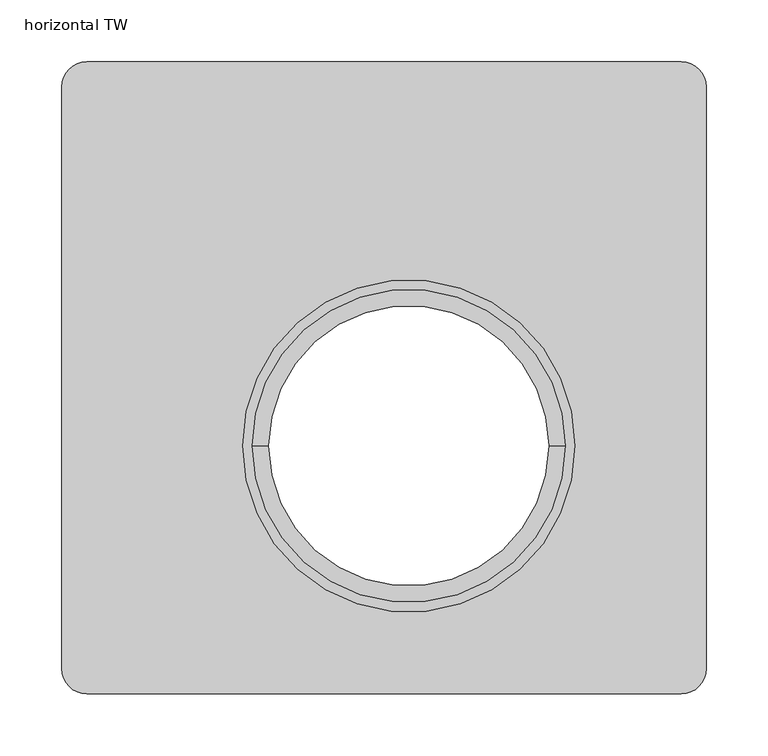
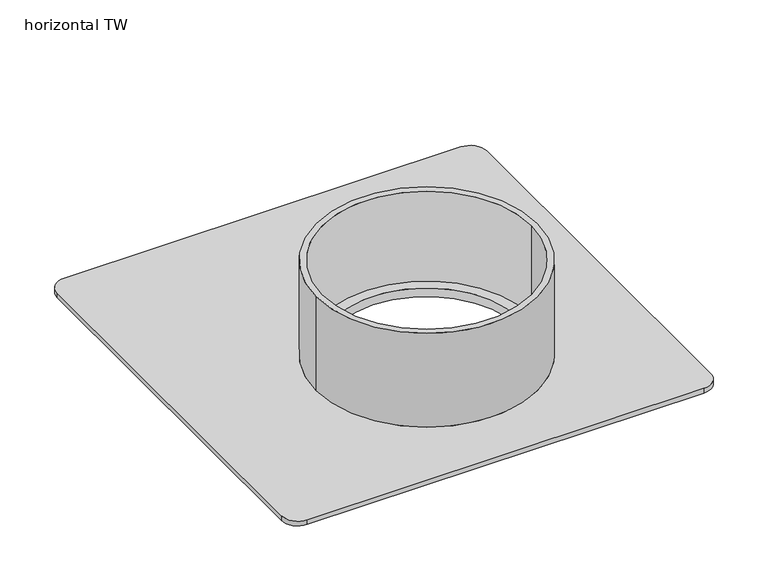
"""IFC4 building model written with IfcOpenShell, lengths in millimetres: unitary equipment geometry, Wavin_MechanicalEquipment_QBicPlusZDoNotUsePipeAdaptor : horizontal TW."""

from ifc_helpers import new_model, si_unit, frame, origin, origin_with_axes, place, context, project, spatial, polyline, circle_curve, source, transform, mapped, element, save
from ifc_brep_helpers import plane_surface, cylinder_surface, revolved_surface, advanced_brep


def horizontal_tw_9e0a140b(model_context):
    return source(origin(), model_context, "Body", "AdvancedBrep", [
        advanced_brep(
        [(220.0, 310.0, 6.0), (-260.0, 310.0, 6.0), (-280.0, 290.0, 6.0), (-280.0, -180.0, 6.0), (-260.0, -200.0, 6.0), (220.0, -200.0, 6.0), (240.0, -180.0, 6.0), (240.0, 290.0, 6.0), (134.0, 0.0, 6.0), (-134.0, 0.0, 6.0), (220.0, 310.0, 0.0), (-260.0, 310.0, 0.0), (-280.0, 290.0, 0.0), (-280.0, -180.0, 0.0), (-260.0, -200.0, 0.0), (220.0, -200.0, 0.0), (240.0, -180.0, 0.0), (240.0, 290.0, 0.0), (-134.0, 0.0, 126.0), (134.0, 0.0, 126.0), (-126.25, 0.0, 126.0), (126.25, 0.0, 126.0), (113.25, 0.0, 0.0), (-113.25, 0.0, 0.0), (126.25, 0.0, 11.0), (-126.25, 0.0, 11.0), (-113.25, 0.0, 11.0), (113.25, 0.0, 11.0), (-113.25, 0.0, 6.0), (113.25, 0.0, 6.0)],
        [
            (0, 1),
            (1, 2, circle_curve(frame((-260.0, 290.0, 6.0), z_axis=(0.0, 0.0, 1.0), x_axis=(1.0, 0.0, 0.0)), 20.0)),
            (2, 3),
            (3, 4, circle_curve(frame((-260.0, -180.0, 6.0), z_axis=(0.0, 0.0, 1.0), x_axis=(1.0, 0.0, 0.0)), 20.0)),
            (4, 5),
            (5, 6, circle_curve(frame((220.0, -180.0, 6.0), z_axis=(0.0, 0.0, 1.0), x_axis=(1.0, 0.0, 0.0)), 20.0)),
            (6, 7),
            (7, 0, circle_curve(frame((220.0, 290.0, 6.0), z_axis=(0.0, 0.0, 1.0), x_axis=(1.0, 0.0, 0.0)), 20.0)),
            (8, 9, circle_curve(frame((0.0, 0.0, 6.0), z_axis=(0.0, 0.0, -1.0), x_axis=(1.0, 0.0, 0.0)), 134.0)),
            (9, 8, circle_curve(frame((0.0, 0.0, 6.0), z_axis=(0.0, 0.0, -1.0), x_axis=(1.0, 0.0, 0.0)), 134.0)),
            (0, 10),
            (10, 11),
            (11, 1),
            (2, 12),
            (12, 13),
            (13, 3),
            (4, 14),
            (14, 15),
            (15, 5),
            (6, 16),
            (16, 17),
            (17, 7),
            (18, 19, circle_curve(frame((0.0, 0.0, 126.0), z_axis=(0.0, 0.0, 1.0), x_axis=(1.0, 0.0, 0.0)), 134.0)),
            (19, 18, circle_curve(frame((0.0, 0.0, 126.0), z_axis=(0.0, 0.0, 1.0), x_axis=(1.0, 0.0, 0.0)), 134.0)),
            (20, 21, circle_curve(frame((0.0, 0.0, 126.0), z_axis=(0.0, 0.0, -1.0), x_axis=(-1.0, 0.0, 0.0)), 126.25)),
            (21, 20, circle_curve(frame((0.0, 0.0, 126.0), z_axis=(0.0, 0.0, -1.0), x_axis=(-1.0, 0.0, 0.0)), 126.25)),
            (10, 17, circle_curve(frame((220.0, 290.0, 0.0), z_axis=(0.0, 0.0, -1.0), x_axis=(1.0, 0.0, 0.0)), 20.0)),
            (16, 15, circle_curve(frame((220.0, -180.0, 0.0), z_axis=(0.0, 0.0, -1.0), x_axis=(1.0, 0.0, 0.0)), 20.0)),
            (14, 13, circle_curve(frame((-260.0, -180.0, 0.0), z_axis=(0.0, 0.0, -1.0), x_axis=(1.0, 0.0, 0.0)), 20.0)),
            (12, 11, circle_curve(frame((-260.0, 290.0, 0.0), z_axis=(0.0, 0.0, -1.0), x_axis=(1.0, 0.0, 0.0)), 20.0)),
            (22, 23, circle_curve(frame((0.0, 0.0, 0.0), z_axis=(0.0, 0.0, 1.0), x_axis=(-1.0, 0.0, 0.0)), 113.25)),
            (23, 22, circle_curve(frame((0.0, 0.0, 0.0), z_axis=(0.0, 0.0, 1.0), x_axis=(-1.0, 0.0, 0.0)), 113.25)),
            (18, 9),
            (8, 19),
            (24, 21),
            (20, 25),
            (25, 24, circle_curve(frame((0.0, 0.0, 11.0), z_axis=(0.0, 0.0, -1.0), x_axis=(-1.0, 0.0, 0.0)), 126.25)),
            (24, 25, circle_curve(frame((0.0, 0.0, 11.0), z_axis=(0.0, 0.0, -1.0), x_axis=(-1.0, 0.0, 0.0)), 126.25)),
            (25, 26),
            (26, 27, circle_curve(frame((0.0, 0.0, 11.0), z_axis=(0.0, 0.0, -1.0), x_axis=(-1.0, 0.0, 0.0)), 113.25)),
            (27, 24),
            (27, 26, circle_curve(frame((0.0, 0.0, 11.0), z_axis=(0.0, 0.0, -1.0), x_axis=(-1.0, 0.0, 0.0)), 113.25)),
            (26, 28),
            (28, 23),
            (22, 29),
            (29, 27),
        ],
        [
            plane_surface(frame((-260.0, 310.0, 6.0), z_axis=(0.0, 0.0, 1.0), x_axis=(-1.0, 0.0, 0.0))),
            plane_surface(frame((220.0, 310.0, 6.0), z_axis=(0.0, 1.0, 0.0), x_axis=(0.0, 0.0, -1.0))),
            plane_surface(frame((-280.0, 290.0, 6.0), z_axis=(-1.0, 0.0, 0.0), x_axis=(0.0, 0.0, -1.0))),
            plane_surface(frame((-260.0, -200.0, 6.0), z_axis=(0.0, -1.0, 0.0), x_axis=(0.0, 0.0, -1.0))),
            plane_surface(frame((240.0, -180.0, 6.0), z_axis=(1.0, 0.0, 0.0), x_axis=(0.0, 0.0, -1.0))),
            plane_surface(frame((134.0, 0.0, 126.0), z_axis=(0.0, 0.0, 1.0), x_axis=(0.0, 1.0, 0.0))),
            plane_surface(frame((134.0, 0.0, 0.0), z_axis=(0.0, 0.0, -1.0), x_axis=(0.0, -1.0, 0.0))),
            cylinder_surface(origin_with_axes(), 134.0),
            revolved_surface(polyline([(-126.25, 0.0, 11.0), (-126.25, 0.0, 126.0)]), (0.0, 0.0, -381.0), (0.0, 0.0, -1.0)),
            plane_surface(frame((0.0, 0.0, 11.0), z_axis=(0.0, 0.0, 1.0), x_axis=(-1.0, 0.0, 0.0))),
            revolved_surface(polyline([(-113.25, 0.0, 0.0), (-113.25, 0.0, 11.0)]), (0.0, 0.0, -381.0), (0.0, 0.0, -1.0)),
            cylinder_surface(frame((-260.0, 290.0, 0.0), z_axis=(0.0, 0.0, 1.0), x_axis=(1.0, 0.0, 0.0)), 20.0),
            cylinder_surface(frame((-260.0, -180.0, 0.0), z_axis=(0.0, 0.0, 1.0), x_axis=(1.0, 0.0, 0.0)), 20.0),
            cylinder_surface(frame((220.0, -180.0, 0.0), z_axis=(0.0, 0.0, 1.0), x_axis=(1.0, 0.0, 0.0)), 20.0),
            cylinder_surface(frame((220.0, 290.0, 0.0), z_axis=(0.0, 0.0, 1.0), x_axis=(1.0, 0.0, 0.0)), 20.0),
        ],
        [
            (0, [[1, 2, 3, 4, 5, 6, 7, 8], [9, 10]]),
            (1, [[-1, 11, 12, 13]]),
            (2, [[-3, 14, 15, 16]]),
            (3, [[-5, 17, 18, 19]]),
            (4, [[-7, 20, 21, 22]]),
            (5, [[23, 24], [25, 26]]),
            (6, [[27, -21, 28, -18, 29, -15, 30, -12], [31, 32]]),
            (7, [[-23, 33, -9, 34]]),
            (7, [[-24, -34, -10, -33]]),
            (8, [[35, -25, 36, 37]]),
            (8, [[-35, 38, -36, -26]]),
            (9, [[-37, 39, 40, 41]]),
            (9, [[-38, -41, 42, -39]]),
            (10, [[-40, 43, 44, -31, 45, 46]]),
            (10, [[-42, -46, -45, -32, -44, -43]]),
            (11, [[-2, -13, -30, -14]]),
            (12, [[-4, -16, -29, -17]]),
            (13, [[-6, -19, -28, -20]]),
            (14, [[-8, -22, -27, -11]]),
        ],
    ),
    ])


if __name__ == "__main__":
    model = new_model("IFC4")
    model_context = context("Model", 3, world=origin())
    ifc_project = project(units=[si_unit("LENGTHUNIT", "METRE", prefix="MILLI")], contexts=[model_context])
    site = spatial("IfcSite", under=ifc_project)
    building = spatial("IfcBuilding", under=site)
    placement = place(None, origin())
    horizontal_tw_shape = horizontal_tw_9e0a140b(model_context)
    element("IfcUnitaryEquipment", 1, ObjectType="Wavin_MechanicalEquipment_QBicPlusZDoNotUsePipeAdaptor : horizontal TW", at=placement, inside=building, context=model_context, shape_type="MappedRepresentation", body=[
        mapped(horizontal_tw_shape, transform((0.0, 0.0, 0.0), x_axis=(1.0, 0.0, 0.0), y_axis=(0.0, 1.0, 0.0), z_axis=(0.0, 0.0, 1.0))),
    ])
    save(model, "model.ifc")
